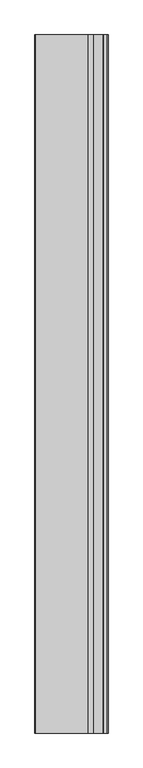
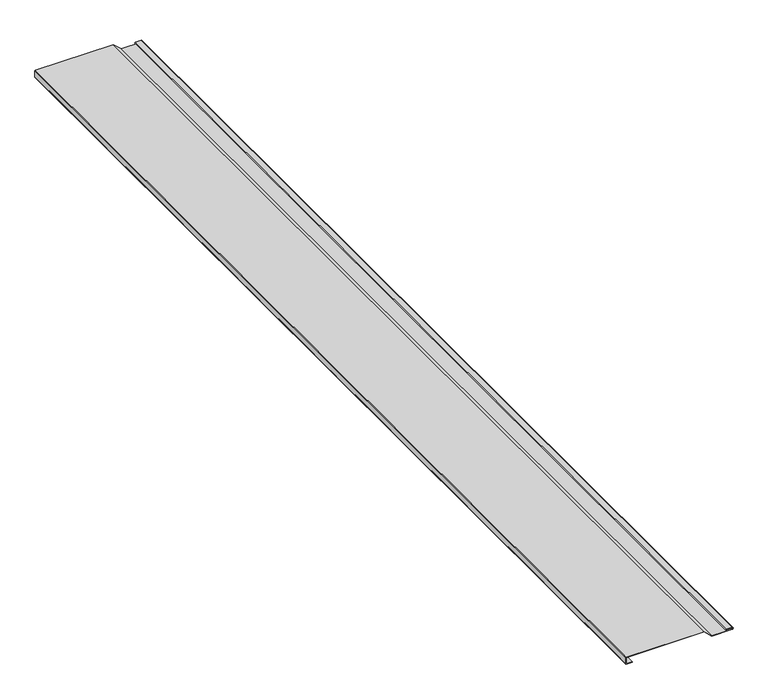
"""IFC4 building model written with IfcOpenShell, lengths in millimetres: proxy geometry, Perception-Collection_Panel_PC-50_AEP_Span : Perception Collection PC50-12c - 20ga."""

from ifc_helpers import new_model, si_unit, point, frame, frame_2d, origin, place, context, project, spatial, polyline, circle_curve, trimmed, segment, composite_curve, outline, extrude, source, transform, mapped, element, save


def generic_models_e150f134(model_context):
    return source(origin(), model_context, "Body", "SweptSolid", [
        extrude(outline(composite_curve([segment(polyline([(0.8933835, -147.3676688), (1.7925435, -147.3676688), (1.7925435, -164.3472361)]), True, "CONTINUOUS"), segment(trimmed(circle_curve(frame_2d((2.3445438, -164.3472361)), 0.5520003), [point((1.7925435, -164.3472361))], [point((2.3445438, -164.8992364))], True, "CARTESIAN"), True, "CONTINUOUS"), segment(polyline([(2.3445438, -164.8992364), (20.9509299, -164.8992364)]), True, "CONTINUOUS"), segment(trimmed(circle_curve(frame_2d((20.9509299, -164.3472361)), 0.5520003), [point((20.9509299, -164.8992364))], [point((21.5029302, -164.3472361))], True, "CARTESIAN"), True, "CONTINUOUS"), segment(polyline([(21.5029302, -164.3472361), (21.5029302, 67.3032974), (0.0, 90.3623669), (0.0, 150.4571548)]), True, "CONTINUOUS"), segment(trimmed(circle_curve(frame_2d((3.1599959, 150.4571548)), 3.1599959), [point((0.0, 150.4571548))], [point((6.3199918, 150.4571548))], False, "CARTESIAN"), True, "CONTINUOUS"), segment(polyline([(6.3199918, 150.4571548), (6.3199918, 133.0216865)]), True, "CONTINUOUS"), segment(trimmed(circle_curve(frame_2d((5.0595896, 133.0216865)), 1.2604023), [point((6.3199918, 133.0216865))], [point((3.7991873, 133.0216865))], False, "CARTESIAN"), True, "CONTINUOUS"), segment(polyline([(3.7991873, 133.0216865), (3.7991873, 144.2251114), (4.6983473, 144.2251114), (4.6983473, 133.0216865)]), True, "CONTINUOUS"), segment(trimmed(circle_curve(frame_2d((5.0595896, 133.0216865)), 0.3612423), [point((4.6983473, 133.0216865))], [point((5.4208318, 133.0216865))], True, "CARTESIAN"), True, "CONTINUOUS"), segment(polyline([(5.4208318, 133.0216865), (5.4208318, 150.4571548)]), True, "CONTINUOUS"), segment(trimmed(circle_curve(frame_2d((3.1599959, 150.4571548)), 2.2608359), [point((5.4208318, 150.4571548))], [point((0.89916, 150.4571548))], True, "CARTESIAN"), True, "CONTINUOUS"), segment(polyline([(0.89916, 150.4571548), (0.89916, 90.7165555), (22.0139046, 68.0737641)]), True, "CONTINUOUS"), segment(trimmed(circle_curve(frame_2d((20.9571211, 67.0882975)), 1.444969), [point((22.0139046, 68.0737641))], [point((22.4020902, 67.0882975))], False, "CARTESIAN"), True, "CONTINUOUS"), segment(polyline([(22.4020902, 67.0882975), (22.4020902, -164.3534273)]), True, "CONTINUOUS"), segment(trimmed(circle_curve(frame_2d((20.9571211, -164.3534273)), 1.444969), [point((22.4020902, -164.3534273))], [point((20.9571211, -165.7983964))], False, "CARTESIAN"), True, "CONTINUOUS"), segment(polyline([(20.9571211, -165.7983964), (2.3383525, -165.7983964)]), True, "CONTINUOUS"), segment(trimmed(circle_curve(frame_2d((2.3383525, -164.3534273)), 1.444969), [point((2.3383525, -165.7983964))], [point((0.8933835, -164.3534273))], False, "CARTESIAN"), True, "CONTINUOUS"), segment(polyline([(0.8933835, -164.3534273), (0.8933835, -147.3676688)]), True, "CONTINUOUS")], self_intersect=False)), frame((0.0, -3048.0, 0.0), z_axis=(0.0, 1.0, 0.0), x_axis=(0.0, 0.0, 1.0)), (0.0, 0.0, 1.0), 3048.0),
    ])


if __name__ == "__main__":
    model = new_model("IFC4")
    model_context = context("Model", 3, world=origin())
    ifc_project = project(units=[si_unit("LENGTHUNIT", "METRE", prefix="MILLI")], contexts=[model_context])
    site = spatial("IfcSite", under=ifc_project)
    building = spatial("IfcBuilding", under=site)
    placement = place(None, origin())
    generic_models_shape = generic_models_e150f134(model_context)
    element("IfcBuildingElementProxy", 1, Name="Perception-Collection_Panel_PC-50_AEP_Span : Perception Collection PC50-12c - 20ga", ObjectType="Perception-Collection_Panel_PC-50_AEP_Span : Perception Collection PC50-12c - 20ga", at=placement, inside=building, context=model_context, shape_type="MappedRepresentation", body=[
        mapped(generic_models_shape, transform((0.0, 0.0, 0.0), x_axis=(1.0, 0.0, 0.0), y_axis=(0.0, 1.0, 0.0), z_axis=(0.0, 0.0, 1.0))),
    ])
    save(model, "model.ifc")
